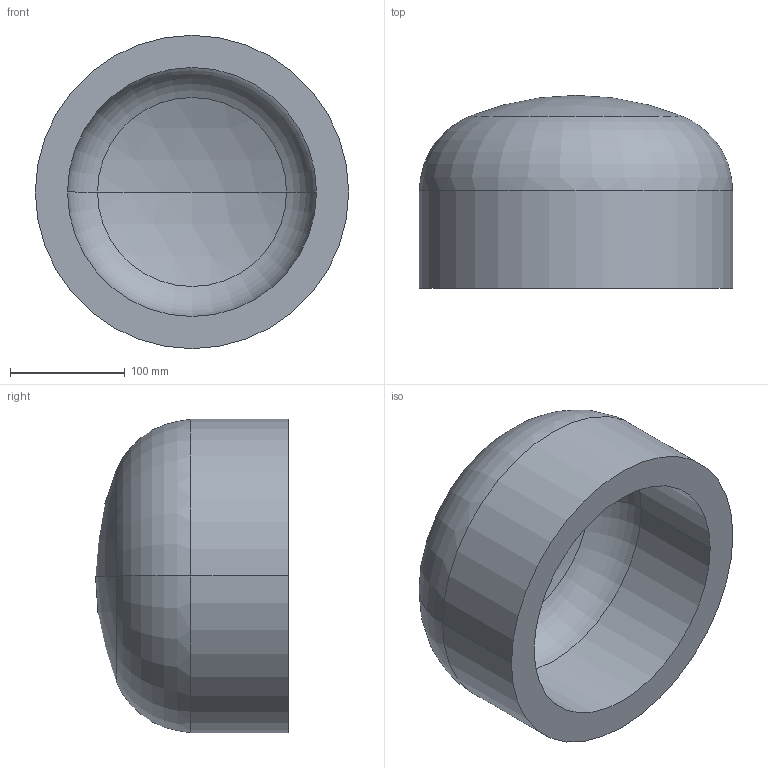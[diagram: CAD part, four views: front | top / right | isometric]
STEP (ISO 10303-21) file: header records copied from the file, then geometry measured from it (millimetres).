
FILE_DESCRIPTION (( 'STEP AP203' ), '1' );
FILE_NAME ('DIN 28013 Korbbogenform_-_Boden DIN 28013 - 273 x 85 - I - s=28.step', '2016-07-01T07:43:45', ( '' ), ( '' ), 'SwSTEP 2.0', 'SolidWorks 2013', '' );
FILE_SCHEMA (( 'CONFIG_CONTROL_DESIGN' ));
Length unit declared in the file: millimetre
Products named in the file (1): DIN 28013 Korbbogenform_-_Boden DIN 28013 - 273 x 85 - I - s=28
Bounding box: 273 x 168.05 x 273 mm (x, y, z)
Volume: 3831392.5 mm3; surface area: 296864.2 mm2
Topology: 1 solids, 1 shells, 13 faces, 24 edges, 14 vertices
Faces by surface type: torus 4, cylinder 4, sphere 4, plane 1
Entity records: 407 total; most frequent: DIRECTION 72, CARTESIAN_POINT 52, ORIENTED_EDGE 48, AXIS2_PLACEMENT_3D 34, EDGE_CURVE 24, CIRCLE 20, VERTEX_POINT 14, EDGE_LOOP 14
